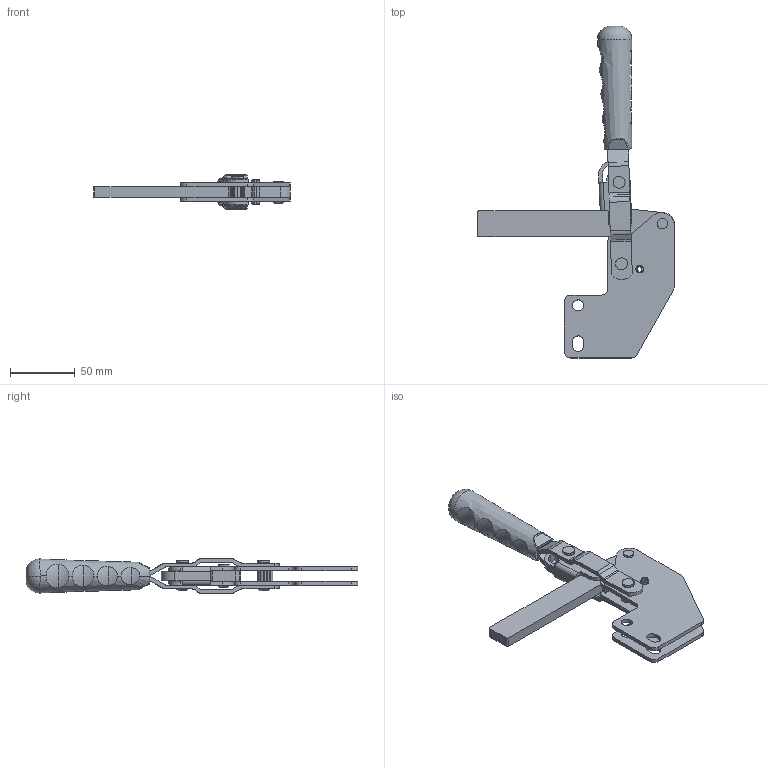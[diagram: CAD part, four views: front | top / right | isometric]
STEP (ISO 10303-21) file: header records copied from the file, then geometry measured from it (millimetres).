
FILE_DESCRIPTION (( 'STEP AP203' ), '1' );
FILE_NAME ('1104_P_L1.STEP', '2025-03-03T13:38:31', ( '' ), ( '' ), 'SwSTEP 2.0', 'SolidWorks 2025', '' );
FILE_SCHEMA (( 'CONFIG_CONTROL_DESIGN' ));
Length unit declared in the file: millimetre
Products named in the file (12): 1104_A_G(GÖVDE)_Varsayılan; Ø6x20_YP(YARIKLI_PİM)_Varsayılan; 1104_BK_L1(BASKI_KOLU); 1104_M(MAFSAL)_Varsayılan; Ø10xØ6x14_B(BURÇ)_Varsayılan; Ø6x24,5_P(PERÇİN)_Varsayılan; C95_T(YENİ_TUTAMAK)_Varsayılan; 1104_P_L1; Ø5x17_P(PERÇİN)_Varsayılan; 1104_HK(HAREKET_KOLU)_Varsayılan; Ø8xØ5x6_B(BURÇ)_Varsayılan; Mirror1104_HK(HAREKET_KOLU)_Varsayılan
Assembly tree (16 placements, depth 2):
  1104_P_L1
    1104_HK(HAREKET_KOLU)_Varsayılan
    1104_M(MAFSAL)_Varsayılan
    1104_A_G(GÖVDE)_Varsayılan  x2
    Ø5x17_P(PERÇİN)_Varsayılan  x2
    Ø6x24,5_P(PERÇİN)_Varsayılan  x2
    Ø8xØ5x6_B(BURÇ)_Varsayılan  x2
    Ø10xØ6x14_B(BURÇ)_Varsayılan  x2
    Ø6x20_YP(YARIKLI_PİM)_Varsayılan
    Mirror1104_HK(HAREKET_KOLU)_Varsayılan
    C95_T(YENİ_TUTAMAK)_Varsayılan
    1104_BK_L1(BASKI_KOLU)
Bounding box: 151.64 x 255.79 x 27 mm (x, y, z)
Volume: 117639.6 mm3; surface area: 71655.4 mm2
Topology: 16 solids, 16 shells, 878 faces, 2255 edges, 1468 vertices
Faces by surface type: plane 586, cylinder 206, cone 40, torus 36, bspline 8, sphere 2
Entity records: 20290 total; most frequent: CARTESIAN_POINT 4056, DIRECTION 3118, ORIENTED_EDGE 3070, EDGE_CURVE 1535, LINE 1042, VECTOR 1042, AXIS2_PLACEMENT_3D 1038, VERTEX_POINT 1004
